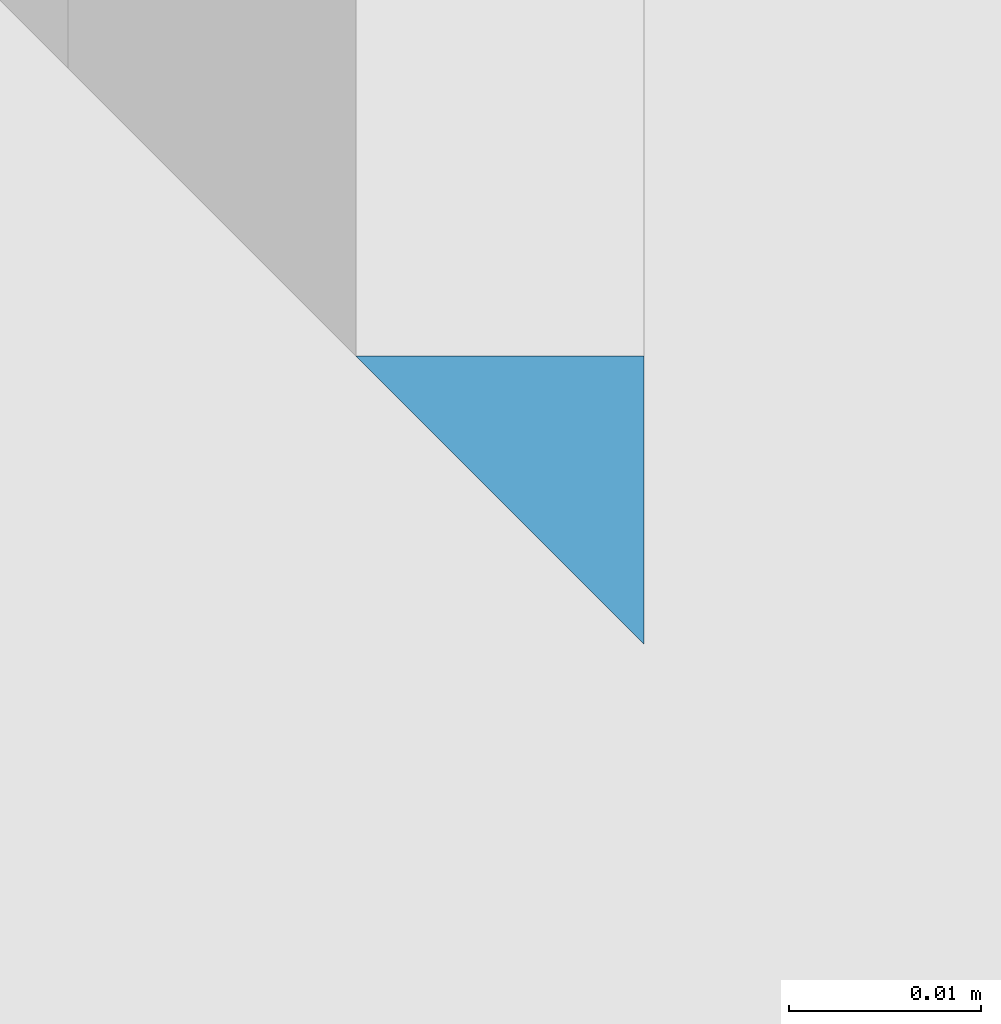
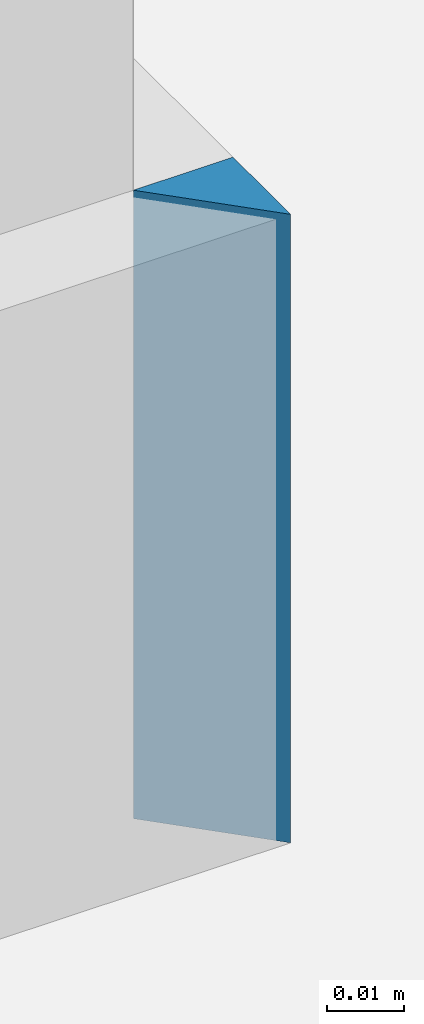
# One storey, part 7 of 82: 1 wall.
"""IFC2X3 building model written with IfcOpenShell, lengths in metres."""

from ifc_helpers import new_model, entity, si_unit, converted_unit, derived_unit, money_unit, direction, frame, origin_with_axes, place, context, subcontext, project, spatial, polyline, outline, extrude, material, layer, layer_set, layer_usage, type_object, element, save


model = new_model("IFC2X3")

# Units and contexts
model_context = context("Model", 3, precision=1e-05, world=origin_with_axes(), true_north=direction((0.0, 1.0)))
body_context = subcontext(model_context, "Body", "Model", "MODEL_VIEW", scale=1.0)
ifc_project = project(units=[si_unit("LENGTHUNIT", "METRE"), si_unit("AREAUNIT", "SQUARE_METRE"), si_unit("VOLUMEUNIT", "CUBIC_METRE"), si_unit("ABSORBEDDOSEUNIT", "GRAY"), si_unit("AMOUNTOFSUBSTANCEUNIT", "MOLE"), si_unit("DOSEEQUIVALENTUNIT", "SIEVERT"), si_unit("ELECTRICCAPACITANCEUNIT", "FARAD"), si_unit("ELECTRICCHARGEUNIT", "COULOMB"), si_unit("ELECTRICCONDUCTANCEUNIT", "SIEMENS"), si_unit("ELECTRICCURRENTUNIT", "AMPERE"), si_unit("ELECTRICRESISTANCEUNIT", "OHM"), si_unit("ELECTRICVOLTAGEUNIT", "VOLT"), si_unit("ENERGYUNIT", "JOULE"), si_unit("FORCEUNIT", "NEWTON"), si_unit("FREQUENCYUNIT", "HERTZ"), si_unit("ILLUMINANCEUNIT", "LUX"), si_unit("INDUCTANCEUNIT", "HENRY"), si_unit("LUMINOUSFLUXUNIT", "LUMEN"), si_unit("LUMINOUSINTENSITYUNIT", "CANDELA"), si_unit("MAGNETICFLUXDENSITYUNIT", "TESLA"), si_unit("MAGNETICFLUXUNIT", "WEBER"), si_unit("MASSUNIT", "GRAM"), converted_unit("PLANEANGLEUNIT", "degree", entity("IfcReal", 0.0174532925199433), si_unit("PLANEANGLEUNIT", "RADIAN"), dimensions=[0, 0, 0, 0, 0, 0, 0]), si_unit("POWERUNIT", "WATT"), si_unit("PRESSUREUNIT", "PASCAL"), si_unit("RADIOACTIVITYUNIT", "BECQUEREL"), si_unit("SOLIDANGLEUNIT", "STERADIAN"), si_unit("THERMODYNAMICTEMPERATUREUNIT", "KELVIN"), si_unit("TIMEUNIT", "SECOND"), derived_unit("ACCELERATIONUNIT", [(si_unit("LENGTHUNIT", "METRE"), 1), (si_unit("TIMEUNIT", "SECOND"), -2)]), derived_unit("ANGULARVELOCITYUNIT", [(converted_unit("PLANEANGLEUNIT", "degree", entity("IfcReal", 0.0174532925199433), si_unit("PLANEANGLEUNIT", "RADIAN"), dimensions=[0, 0, 0, 0, 0, 0, 0]), 1), (si_unit("TIMEUNIT", "SECOND"), -1)]), derived_unit("CURVATUREUNIT", [(converted_unit("PLANEANGLEUNIT", "degree", entity("IfcReal", 0.0174532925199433), si_unit("PLANEANGLEUNIT", "RADIAN"), dimensions=[0, 0, 0, 0, 0, 0, 0]), 1), (si_unit("LENGTHUNIT", "METRE"), -1)]), derived_unit("DYNAMICVISCOSITYUNIT", [(si_unit("PRESSUREUNIT", "PASCAL"), 1), (si_unit("TIMEUNIT", "SECOND"), 1)]), derived_unit("HEATFLUXDENSITYUNIT", [(si_unit("POWERUNIT", "WATT"), 1), (si_unit("LENGTHUNIT", "METRE"), -2)]), derived_unit("HEATINGVALUEUNIT", [(si_unit("ENERGYUNIT", "JOULE"), 1), (si_unit("MASSUNIT", "GRAM"), -1)]), derived_unit("INTEGERCOUNTRATEUNIT", [(si_unit("TIMEUNIT", "SECOND"), -1)]), derived_unit("IONCONCENTRATIONUNIT", [(si_unit("MASSUNIT", "GRAM"), 1), (si_unit("VOLUMEUNIT", "CUBIC_METRE"), -1)]), derived_unit("ISOTHERMALMOISTURECAPACITYUNIT", [(si_unit("VOLUMEUNIT", "CUBIC_METRE"), 1), (si_unit("MASSUNIT", "GRAM"), -1)]), derived_unit("KINEMATICVISCOSITYUNIT", [(si_unit("AREAUNIT", "SQUARE_METRE"), 1), (si_unit("TIMEUNIT", "SECOND"), -1)]), derived_unit("LINEARFORCEUNIT", [(si_unit("FORCEUNIT", "NEWTON"), 1), (si_unit("LENGTHUNIT", "METRE"), -1)]), derived_unit("LINEARMOMENTUNIT", [(si_unit("FORCEUNIT", "NEWTON"), 1), (si_unit("LENGTHUNIT", "METRE"), -1)]), derived_unit("LINEARSTIFFNESSUNIT", [(si_unit("FORCEUNIT", "NEWTON"), 1), (si_unit("LENGTHUNIT", "METRE"), -1)]), derived_unit("LINEARVELOCITYUNIT", [(si_unit("LENGTHUNIT", "METRE"), 1), (si_unit("TIMEUNIT", "SECOND"), -1)]), derived_unit("LUMINOUSINTENSITYDISTRIBUTIONUNIT", [(si_unit("LUMINOUSINTENSITYUNIT", "CANDELA"), 1), (si_unit("LUMINOUSFLUXUNIT", "LUMEN"), -1)]), derived_unit("MASSDENSITYUNIT", [(si_unit("MASSUNIT", "GRAM"), 1), (si_unit("VOLUMEUNIT", "CUBIC_METRE"), -1)]), derived_unit("MASSFLOWRATEUNIT", [(si_unit("MASSUNIT", "GRAM"), 1), (si_unit("TIMEUNIT", "SECOND"), -1)]), derived_unit("MASSPERLENGTHUNIT", [(si_unit("MASSUNIT", "GRAM"), 1), (si_unit("LENGTHUNIT", "METRE"), -1)]), derived_unit("MODULUSOFELASTICITYUNIT", [(si_unit("FORCEUNIT", "NEWTON"), 1), (si_unit("AREAUNIT", "SQUARE_METRE"), -1)]), derived_unit("MODULUSOFLINEARSUBGRADEREACTIONUNIT", [(si_unit("FORCEUNIT", "NEWTON"), 1), (si_unit("LENGTHUNIT", "METRE"), -2)]), derived_unit("MODULUSOFROTATIONALSUBGRADEREACTIONUNIT", [(si_unit("FORCEUNIT", "NEWTON"), 1), (si_unit("LENGTHUNIT", "METRE"), 1)]), derived_unit("MODULUSOFSUBGRADEREACTIONUNIT", [(si_unit("FORCEUNIT", "NEWTON"), 1), (si_unit("VOLUMEUNIT", "CUBIC_METRE"), -1)]), derived_unit("MOISTUREDIFFUSIVITYUNIT", [(si_unit("VOLUMEUNIT", "CUBIC_METRE"), 1), (si_unit("TIMEUNIT", "SECOND"), -1)]), derived_unit("MOLECULARWEIGHTUNIT", [(si_unit("MASSUNIT", "GRAM"), 1), (si_unit("AMOUNTOFSUBSTANCEUNIT", "MOLE"), -1)]), derived_unit("PLANARFORCEUNIT", [(si_unit("FORCEUNIT", "NEWTON"), 1), (si_unit("LENGTHUNIT", "METRE"), -2)]), derived_unit("ROTATIONALFREQUENCYUNIT", [(si_unit("TIMEUNIT", "SECOND"), -1)]), derived_unit("ROTATIONALMASSUNIT", [(si_unit("MASSUNIT", "GRAM"), 1), (si_unit("LENGTHUNIT", "METRE"), 2)]), derived_unit("ROTATIONALSTIFFNESSUNIT", [(si_unit("FORCEUNIT", "NEWTON"), 1), (si_unit("LENGTHUNIT", "METRE"), 1), (converted_unit("PLANEANGLEUNIT", "degree", entity("IfcReal", 0.0174532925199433), si_unit("PLANEANGLEUNIT", "RADIAN"), dimensions=[0, 0, 0, 0, 0, 0, 0]), -1)]), derived_unit("SECTIONAREAINTEGRALUNIT", [(si_unit("LENGTHUNIT", "METRE"), 5)]), derived_unit("SECTIONMODULUSUNIT", [(si_unit("LENGTHUNIT", "METRE"), 3)]), derived_unit("SHEARMODULUSUNIT", [(si_unit("FORCEUNIT", "NEWTON"), 1), (si_unit("AREAUNIT", "SQUARE_METRE"), -1)]), derived_unit("SOUNDPOWERUNIT", [(si_unit("ENERGYUNIT", "JOULE"), 1), (si_unit("TIMEUNIT", "SECOND"), -1)]), derived_unit("SPECIFICHEATCAPACITYUNIT", [(si_unit("FORCEUNIT", "NEWTON"), 1), (si_unit("MASSUNIT", "GRAM"), -1), (si_unit("THERMODYNAMICTEMPERATUREUNIT", "KELVIN"), -1)]), derived_unit("TEMPERATUREGRADIENTUNIT", [(si_unit("THERMODYNAMICTEMPERATUREUNIT", "KELVIN"), 1), (si_unit("LENGTHUNIT", "METRE"), -1)]), derived_unit("THERMALADMITTANCEUNIT", [(si_unit("POWERUNIT", "WATT"), 1), (si_unit("AREAUNIT", "SQUARE_METRE"), -1), (si_unit("THERMODYNAMICTEMPERATUREUNIT", "KELVIN"), -1)]), derived_unit("THERMALCONDUCTANCEUNIT", [(si_unit("POWERUNIT", "WATT"), 1), (si_unit("LENGTHUNIT", "METRE"), -1), (si_unit("THERMODYNAMICTEMPERATUREUNIT", "KELVIN"), -1)]), derived_unit("THERMALEXPANSIONCOEFFICIENTUNIT", [(si_unit("THERMODYNAMICTEMPERATUREUNIT", "KELVIN"), -1)]), derived_unit("THERMALRESISTANCEUNIT", [(si_unit("AREAUNIT", "SQUARE_METRE"), 1), (si_unit("POWERUNIT", "WATT"), -1)]), derived_unit("THERMALTRANSMITTANCEUNIT", [(si_unit("POWERUNIT", "WATT"), 1), (si_unit("AREAUNIT", "SQUARE_METRE"), -1), (si_unit("THERMODYNAMICTEMPERATUREUNIT", "KELVIN"), -1)]), derived_unit("TORQUEUNIT", [(si_unit("FORCEUNIT", "NEWTON"), 1), (si_unit("LENGTHUNIT", "METRE"), 1)]), derived_unit("VAPORPERMEABILITYUNIT", [(si_unit("MASSUNIT", "GRAM"), 1), (si_unit("TIMEUNIT", "SECOND"), -1)]), derived_unit("VOLUMETRICFLOWRATEUNIT", [(si_unit("VOLUMEUNIT", "CUBIC_METRE"), 1), (si_unit("TIMEUNIT", "SECOND"), -1)]), derived_unit("WARPINGCONSTANTUNIT", [(si_unit("LENGTHUNIT", "METRE"), 6)]), derived_unit("WARPINGMOMENTUNIT", [(si_unit("FORCEUNIT", "NEWTON"), 1), (si_unit("LENGTHUNIT", "METRE"), 2)]), money_unit("GBP")], contexts=[model_context])

# Site, building, storey
site_placement = place(None, origin_with_axes())
site = spatial("IfcSite", under=ifc_project, at=site_placement, Name="Site", CompositionType="ELEMENT")
building_placement = place(site_placement, origin_with_axes())
building = spatial("IfcBuilding", under=site, at=building_placement, Name="Building01", CompositionType="ELEMENT")
storey_placement = place(building_placement, frame((0.0, 0.0, 12.13), z_axis=(0.0, 0.0, 1.0), x_axis=(1.0, 0.0, 0.0)))
storey = spatial("IfcBuildingStorey", under=building, at=storey_placement, Name="3F", CompositionType="ELEMENT", Elevation=12.13)

# Wall
ifc_material = material(Name="A_BSUK_Walls_Timber")
ifc_layer = layer(ifc_material, 0.015, ventilated=False)
ifc_layer_set = layer_set([ifc_layer])
ifc_layer_usage = layer_usage(ifc_layer_set, "AXIS2", "POSITIVE", 0.0)
wall_type = type_object("IfcWallType", Name="default", PredefinedType="NOTDEFINED")
wall_placement = place(storey_placement, frame((14.85, 4.164443, 0.015), z_axis=(0.0, 0.0, 1.0), x_axis=(0.0, 1.0, 0.0)))
element("IfcWallStandardCase", 1, at=wall_placement, inside=storey, type_object=wall_type, material=ifc_layer_usage, Name="default", ObjectType="default", context=body_context, shape_type="SweptSolid", body=[
    extrude(outline(polyline([(-0.015015, -0.015), (0.0, -0.015), (0.0, 0.0), (-1.5e-05, 0.0), (-0.015015, -0.015)])), origin_with_axes(), (0.0, 0.0, 1.0), 0.1),
])

save(model, "model.ifc")
